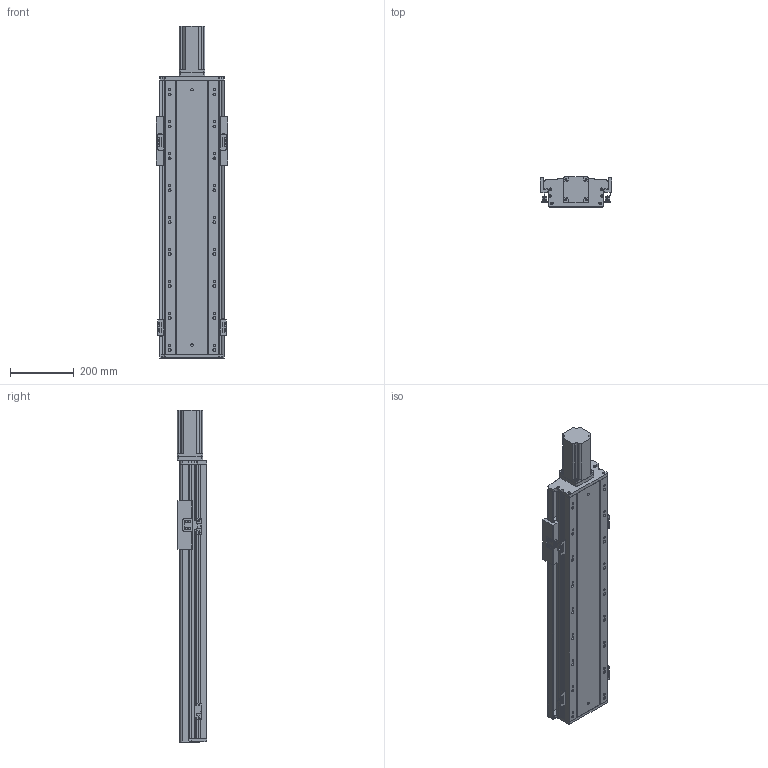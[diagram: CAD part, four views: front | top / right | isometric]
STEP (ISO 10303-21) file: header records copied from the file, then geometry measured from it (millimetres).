
FILE_DESCRIPTION (( 'STEP AP203' ), '1' );
FILE_NAME ('RY170FB-L2510-300-MK.SLDASM_550.step', '2021-02-22T08:56:35', ( '盈信电脑' ), ( '东莞市道滘镇水果街19号' ), 'SwSTEP 2.0', 'SolidWorks 2012', '' );
FILE_SCHEMA (( 'CONFIG_CONTROL_DESIGN' ));
Length unit declared in the file: millimetre
Products named in the file (16): RY140FB-覜茼え; RY170FB-L2510-300-MK.SLDASM_550; RY140FB-674嫖萇覜茼え; RY140直线电机感应器674光电安装座; RY140-674嫖萇耀輸; RY170FB-300奻裔_550; 750W萇儂梓袧蛌諉啣; 侂狟750W萇儂ㄗ80遺ㄘ; 覜茼ん674; 滅袉蝶18-28; RY170FB-铝滑块(25丝杆）; RY170FB-ヶ裔啣; 滅袉蝶18-10; RY170FB-綴裔啣; RY170FB-300倰第菁釱-MK_550
Assembly tree (20 placements, depth 3):
  RY170FB-L2510-300-MK.SLDASM_550
    RY170FB-300倰第菁釱-MK_550
    RY170FB-綴裔啣
    RY170FB-ヶ裔啣
    滅袉蝶18-28
    滅袉蝶18-10
    RY170FB-铝滑块(25丝杆）
    RY170FB-300奻裔_550
    750W萇儂梓袧蛌諉啣
    侂狟750W萇儂ㄗ80遺ㄘ
    RY140-674嫖萇耀輸  x2
      覜茼ん674
      RY140直线电机感应器674光电安装座
    RY140FB-674嫖萇覜茼え
    RY140-674嫖萇耀輸  x2
      覜茼ん674
      RY140直线电机感应器674光电安装座
    RY140FB-覜茼え
Bounding box: 225 x 93.2 x 1039.5 mm (x, y, z)
Volume: 5799769.9 mm3; surface area: 1600181.5 mm2
Topology: 21 solids, 21 shells, 1625 faces, 4665 edges, 3006 vertices
Faces by surface type: plane 761, cylinder 760, cone 104
Entity records: 41921 total; most frequent: CARTESIAN_POINT 9106, ORIENTED_EDGE 6574, DIRECTION 6477, EDGE_CURVE 3287, AXIS2_PLACEMENT_3D 2353, VERTEX_POINT 2160, VECTOR 1771, LINE 1771
